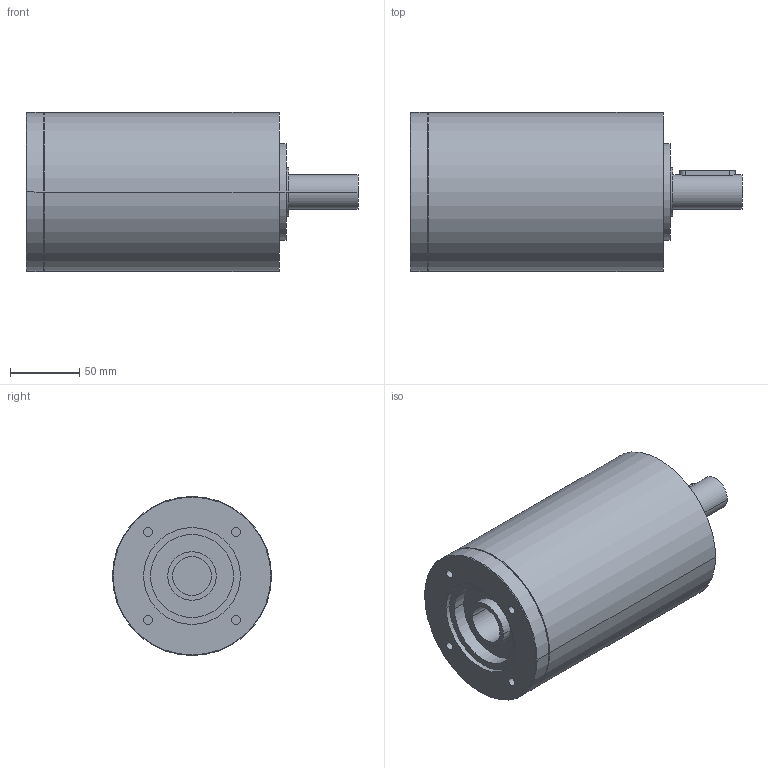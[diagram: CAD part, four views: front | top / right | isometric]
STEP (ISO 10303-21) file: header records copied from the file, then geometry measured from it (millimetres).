
FILE_DESCRIPTION(('CoCreate Modeling STEP Export'),'2;1');
FILE_NAME('GPR125_ig-9-12-16-20-28-35_25_B14_28_P17.stp','2014-08-26T14:11:43',(''),(''),'CoCreate Modeling STEP processor for AP214 (Solid Model)','CoCreate Modeling 16.00C 25-Feb-2009 (C) Parametric Technology GmbH','');
FILE_SCHEMA(('AUTOMOTIVE_DESIGN { 1 0 10303 214 1 1 1 1 }'));
Length unit declared in the file: millimetre
Products named in the file (2): GPR125_ig-9-12-16-20-28-35_25_B14_28_P17
Assembly tree (1 placements, depth 2):
  GPR125_ig-9-12-16-20-28-35_25_B14_28_P17
    GPR125_ig-9-12-16-20-28-35_25_B14_28_P17
Bounding box: 240 x 115 x 115 mm (x, y, z)
Volume: 1872409.8 mm3; surface area: 104494.2 mm2
Topology: 1 solids, 1 shells, 67 faces, 166 edges, 116 vertices
Faces by surface type: cylinder 38, plane 21, cone 8
Entity records: 1700 total; most frequent: ORIENTED_EDGE 328, CARTESIAN_POINT 320, DIRECTION 220, EDGE_CURVE 164, VERTEX_POINT 116, AXIS2_PLACEMENT_3D 84, EDGE_LOOP 84, FACE_OUTER_BOUND 67
